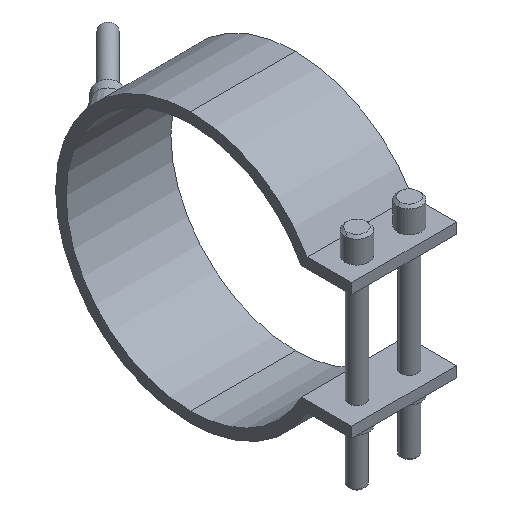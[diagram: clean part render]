
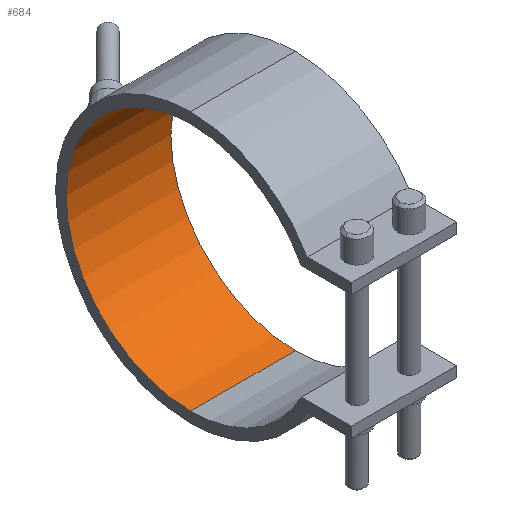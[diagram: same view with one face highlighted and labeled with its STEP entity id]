
A CAD part, isometric view. The second image highlights one B-rep face of the part: STEP entity #684.
In plain terms, the highlighted cylindrical face has radius 47.5 mm (diameter 95 mm), a partial arc.
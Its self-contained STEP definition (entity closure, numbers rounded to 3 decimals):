
#354=CARTESIAN_POINT('Vertex',(20.,0.,47.5)) ;
#359=CARTESIAN_POINT('Axis2P3D Location',(20.,0.,0.)) ;
#363=CARTESIAN_POINT('Vertex',(20.,0.,-47.5)) ;
#470=CARTESIAN_POINT('Vertex',(-20.,0.,-47.5)) ;
#473=CARTESIAN_POINT('Axis2P3D Location',(-20.,0.,0.)) ;
#477=CARTESIAN_POINT('Vertex',(-20.,0.,47.5)) ;
#656=CARTESIAN_POINT('Line Origine',(20.,0.,47.5)) ;
#668=CARTESIAN_POINT('Axis2P3D Location',(20.,0.,0.)) ;
#673=CARTESIAN_POINT('Line Origine',(20.,0.,-47.5)) ;
#360=DIRECTION('Axis2P3D Direction',(1.,0.,0.)) ;
#474=DIRECTION('Axis2P3D Direction',(1.,0.,0.)) ;
#657=DIRECTION('Vector Direction',(1.,0.,0.)) ;
#669=DIRECTION('Axis2P3D Direction',(1.,0.,-0.)) ;
#670=DIRECTION('Axis2P3D XDirection',(0.,0.,-1.)) ;
#674=DIRECTION('Vector Direction',(1.,0.,0.)) ;
#361=AXIS2_PLACEMENT_3D('Circle Axis2P3D',#359,#360,$) ;
#475=AXIS2_PLACEMENT_3D('Circle Axis2P3D',#473,#474,$) ;
#671=AXIS2_PLACEMENT_3D('Cylinder Axis2P3D',#668,#669,#670) ;
#679=ORIENTED_EDGE('',*,*,#365,.T.) ;
#680=ORIENTED_EDGE('',*,*,#660,.T.) ;
#681=ORIENTED_EDGE('',*,*,#479,.F.) ;
#682=ORIENTED_EDGE('',*,*,#677,.T.) ;
#658=VECTOR('Line Direction',#657,1.) ;
#675=VECTOR('Line Direction',#674,1.) ;
#684=ADVANCED_FACE('29095040',(#683),#672,.F.) ;
#362=CIRCLE('generated circle',#361,47.5) ;
#476=CIRCLE('generated circle',#475,47.5) ;
#672=CYLINDRICAL_SURFACE('generated cylinder',#671,47.5) ;
#365=EDGE_CURVE('',#364,#355,#362,.T.) ;
#479=EDGE_CURVE('',#471,#478,#476,.T.) ;
#660=EDGE_CURVE('',#355,#478,#659,.F.) ;
#677=EDGE_CURVE('',#471,#364,#676,.T.) ;
#678=EDGE_LOOP('',(#679,#680,#681,#682)) ;
#683=FACE_OUTER_BOUND('',#678,.T.) ;
#659=LINE('Line',#656,#658) ;
#676=LINE('Line',#673,#675) ;
#355=VERTEX_POINT('',#354) ;
#364=VERTEX_POINT('',#363) ;
#471=VERTEX_POINT('',#470) ;
#478=VERTEX_POINT('',#477) ;
